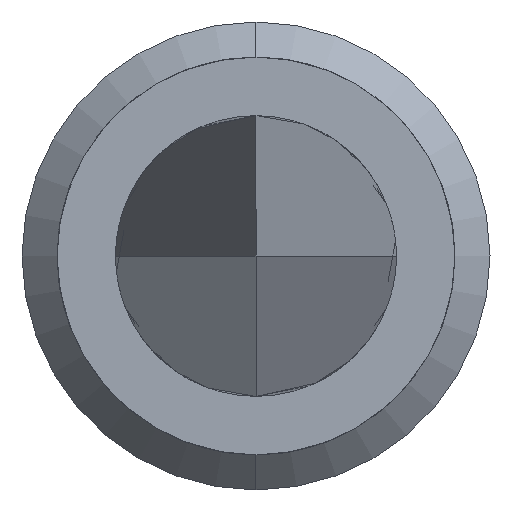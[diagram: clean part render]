
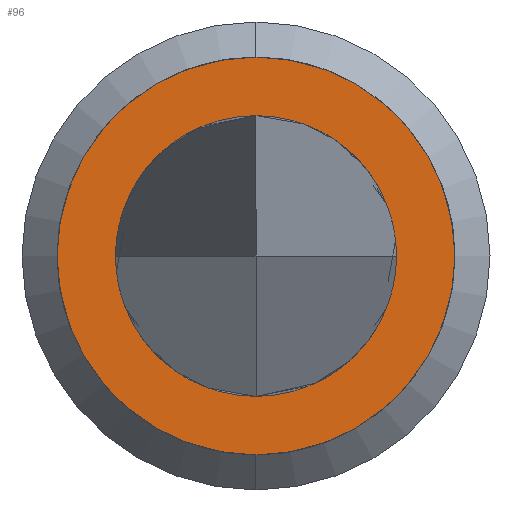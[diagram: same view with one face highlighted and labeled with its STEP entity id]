
A CAD part, left-side view. The second image highlights one B-rep face of the part: STEP entity #96.
In plain terms, the highlighted planar face has unit normal (-1, 0, 0).
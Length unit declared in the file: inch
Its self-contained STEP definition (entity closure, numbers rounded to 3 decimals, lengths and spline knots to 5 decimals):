
#24 = CARTESIAN_POINT ( 'NONE',  ( 0.33, 0.01516, 0.00888 ) ) ;
#30 = CARTESIAN_POINT ( 'NONE',  ( 0.33, -0.017, -0.00445 ) ) ;
#96 = ADVANCED_FACE ( 'NONE', ( #108 ), #431, .T. ) ;
#99 = VERTEX_POINT ( 'NONE', #301 ) ;
#105 = AXIS2_PLACEMENT_3D ( 'NONE', #814, #756, #372 ) ;
#108 = FACE_OUTER_BOUND ( 'NONE', #658, .T. ) ;
#124 = CARTESIAN_POINT ( 'NONE',  ( 0.33, 0.00449, -0.017 ) ) ;
#142 = ORIENTED_EDGE ( 'NONE', *, *, #177, .T. ) ;
#177 = EDGE_CURVE ( 'NONE', #99, #576, #466, .T. ) ;
#181 = CARTESIAN_POINT ( 'NONE',  ( 0.33, 0.00888, 0.01516 ) ) ;
#234 = CARTESIAN_POINT ( 'NONE',  ( 0.33, -0.00888, -0.01516 ) ) ;
#271 = CARTESIAN_POINT ( 'NONE',  ( 0.33, -0.017, 0.00442 ) ) ;
#301 = CARTESIAN_POINT ( 'NONE',  ( 0.33, 0., 0.017 ) ) ;
#335 = CARTESIAN_POINT ( 'NONE',  ( 0.33, -0.0152, 0.00884 ) ) ;
#347 = CARTESIAN_POINT ( 'NONE',  ( 0.33, 0.017, 0.00445 ) ) ;
#372 = DIRECTION ( 'NONE',  ( 0., 0., 1. ) ) ;
#390 = CARTESIAN_POINT ( 'NONE',  ( 0.33, 0., 0.017 ) ) ;
#426 = CARTESIAN_POINT ( 'NONE',  ( 0.33, -0.01516, -0.00888 ) ) ;
#431 = PLANE ( 'NONE',  #105 ) ;
#458 = CARTESIAN_POINT ( 'NONE',  ( 0.33, -0.00886, 0.01519 ) ) ;
#465 = CARTESIAN_POINT ( 'NONE',  ( 0.33, 0.00449, 0.017 ) ) ;
#466 = B_SPLINE_CURVE_WITH_KNOTS ( 'NONE', 3,
 ( #597, #465, #181, #24, #347, #700, #639, #501, #124, #827 ),
 .UNSPECIFIED., .F., .F.,
 ( 4, 2, 2, 2, 4 ),
 ( 0., 0.00034, 0.00067, 0.00101, 0.00135 ),
 .UNSPECIFIED. ) ;
#501 = CARTESIAN_POINT ( 'NONE',  ( 0.33, 0.00886, -0.01519 ) ) ;
#525 = CARTESIAN_POINT ( 'NONE',  ( 0.33, -0.00449, 0.017 ) ) ;
#569 = ORIENTED_EDGE ( 'NONE', *, *, #600, .T. ) ;
#576 = VERTEX_POINT ( 'NONE', #746 ) ;
#597 = CARTESIAN_POINT ( 'NONE',  ( 0.33, 0., 0.017 ) ) ;
#600 = EDGE_CURVE ( 'NONE', #576, #99, #730, .T. ) ;
#613 = CARTESIAN_POINT ( 'NONE',  ( 0.33, 0., -0.017 ) ) ;
#639 = CARTESIAN_POINT ( 'NONE',  ( 0.33, 0.0152, -0.00884 ) ) ;
#658 = EDGE_LOOP ( 'NONE', ( #569, #142 ) ) ;
#700 = CARTESIAN_POINT ( 'NONE',  ( 0.33, 0.017, -0.00442 ) ) ;
#730 = B_SPLINE_CURVE_WITH_KNOTS ( 'NONE', 3,
 ( #613, #819, #234, #426, #30, #271, #335, #458, #525, #390 ),
 .UNSPECIFIED., .F., .F.,
 ( 4, 2, 2, 2, 4 ),
 ( 0.00135, 0.00169, 0.00202, 0.00236, 0.0027 ),
 .UNSPECIFIED. ) ;
#746 = CARTESIAN_POINT ( 'NONE',  ( 0.33, 0., -0.017 ) ) ;
#756 = DIRECTION ( 'NONE',  ( -1., 0., 0. ) ) ;
#814 = CARTESIAN_POINT ( 'NONE',  ( 0.33, 0., 0. ) ) ;
#819 = CARTESIAN_POINT ( 'NONE',  ( 0.33, -0.00449, -0.017 ) ) ;
#827 = CARTESIAN_POINT ( 'NONE',  ( 0.33, 0., -0.017 ) ) ;
